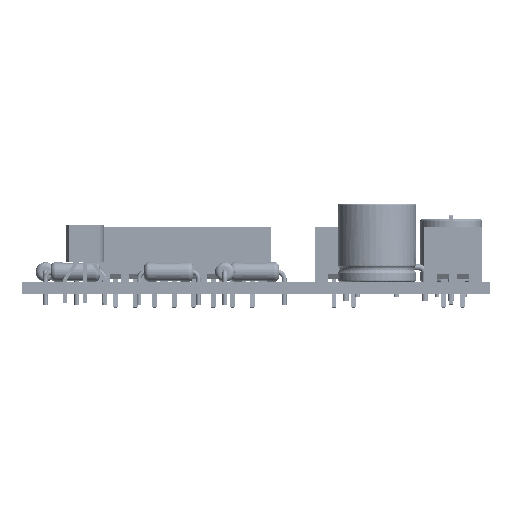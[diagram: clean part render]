
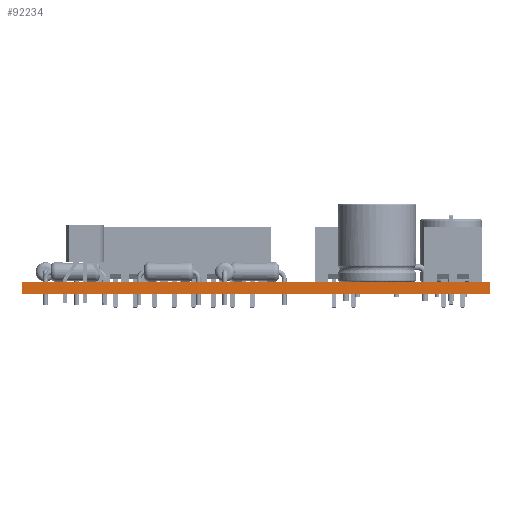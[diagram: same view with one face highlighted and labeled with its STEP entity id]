
A CAD part, front view. The second image highlights one B-rep face of the part: STEP entity #92234.
In plain terms, the highlighted planar face has unit normal (0, -1, 0).
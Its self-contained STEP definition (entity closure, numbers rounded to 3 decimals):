
#92234 = ADVANCED_FACE('',(#92235),#92269,.T.);
#92235 = FACE_BOUND('',#92236,.T.);
#92236 = EDGE_LOOP('',(#92237,#92247,#92255,#92263));
#92237 = ORIENTED_EDGE('',*,*,#92238,.T.);
#92238 = EDGE_CURVE('',#92239,#92241,#92243,.T.);
#92239 = VERTEX_POINT('',#92240);
#92240 = CARTESIAN_POINT('',(30.,-46.,0.));
#92241 = VERTEX_POINT('',#92242);
#92242 = CARTESIAN_POINT('',(30.,-46.,1.51));
#92243 = LINE('',#92244,#92245);
#92244 = CARTESIAN_POINT('',(30.,-46.,0.));
#92245 = VECTOR('',#92246,1.);
#92246 = DIRECTION('',(0.,0.,1.));
#92247 = ORIENTED_EDGE('',*,*,#92248,.T.);
#92248 = EDGE_CURVE('',#92241,#92249,#92251,.T.);
#92249 = VERTEX_POINT('',#92250);
#92250 = CARTESIAN_POINT('',(-30.,-46.,1.51));
#92251 = LINE('',#92252,#92253);
#92252 = CARTESIAN_POINT('',(30.,-46.,1.51));
#92253 = VECTOR('',#92254,1.);
#92254 = DIRECTION('',(-1.,0.,0.));
#92255 = ORIENTED_EDGE('',*,*,#92256,.F.);
#92256 = EDGE_CURVE('',#92257,#92249,#92259,.T.);
#92257 = VERTEX_POINT('',#92258);
#92258 = CARTESIAN_POINT('',(-30.,-46.,0.));
#92259 = LINE('',#92260,#92261);
#92260 = CARTESIAN_POINT('',(-30.,-46.,0.));
#92261 = VECTOR('',#92262,1.);
#92262 = DIRECTION('',(0.,0.,1.));
#92263 = ORIENTED_EDGE('',*,*,#92264,.F.);
#92264 = EDGE_CURVE('',#92239,#92257,#92265,.T.);
#92265 = LINE('',#92266,#92267);
#92266 = CARTESIAN_POINT('',(30.,-46.,0.));
#92267 = VECTOR('',#92268,1.);
#92268 = DIRECTION('',(-1.,0.,0.));
#92269 = PLANE('',#92270);
#92270 = AXIS2_PLACEMENT_3D('',#92271,#92272,#92273);
#92271 = CARTESIAN_POINT('',(30.,-46.,0.));
#92272 = DIRECTION('',(0.,-1.,0.));
#92273 = DIRECTION('',(-1.,0.,0.));
